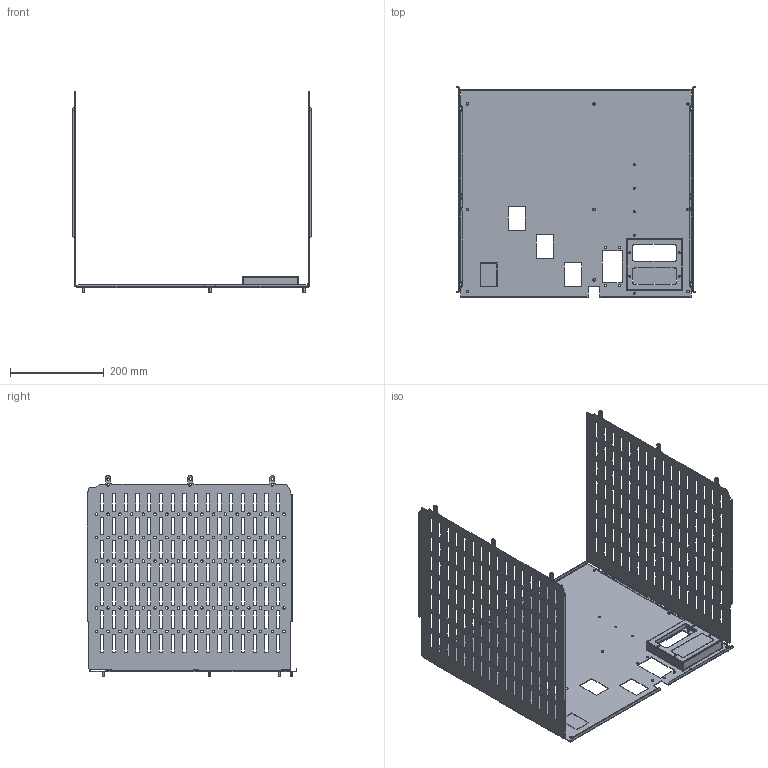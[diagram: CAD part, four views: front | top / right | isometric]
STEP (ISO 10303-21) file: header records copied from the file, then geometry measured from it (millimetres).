
FILE_DESCRIPTION(('CAx-IF Rec.Pracs.---Model Styling and Organization---1.2---2011-12-15','CAx-IF Rec.Pracs.---Geometric and Assembly Validation Properties---4.1---2014-06-16','CAx-IF Rec.Pracs.---PMI Polyline Presentation---2.0---2013-05-24'),'2;1');
FILE_NAME('R5M2W9M1A61.stp','2021-05-05T12:34:32+03:00',(''),(''),'STEP Interface 4.4 by CT CoreTechnologie','3D_Evolution4.4 by CT CoreTechnologie','');
FILE_SCHEMA(('AUTOMOTIVE_DESIGN { 1 0 10303 214 1 1 1 1 }'));
Length unit declared in the file: millimetre
Products named in the file (6): R5M2W9M1A61; M5x8-DIN7500C_stright; RB.1285.00.00.0_-14; RB.1285.00.00.0_-15; RB.1257.00.00.0_-14; RB.1568.00.00.0_-00
Assembly tree (17 placements, depth 2):
  R5M2W9M1A61
    M5x8-DIN7500C_stright  x13
    RB.1285.00.00.0_-14
    RB.1285.00.00.0_-15
    RB.1257.00.00.0_-14
    RB.1568.00.00.0_-00
Bounding box: 510 x 447.5 x 428.6 mm (x, y, z)
Surface area: 1070799.9 mm2 (no closed solid volume)
Topology: 0 solids, 21 shells, 1812 faces, 5321 edges, 3539 vertices
Faces by surface type: plane 1200, cylinder 604, bspline 8
Entity records: 61738 total; most frequent: CARTESIAN_POINT 10848, ORIENTED_EDGE 10498, DIRECTION 9941, EDGE_CURVE 5249, VECTOR 4077, LINE 4077, VERTEX_POINT 3491, AXIS2_PLACEMENT_3D 2932
